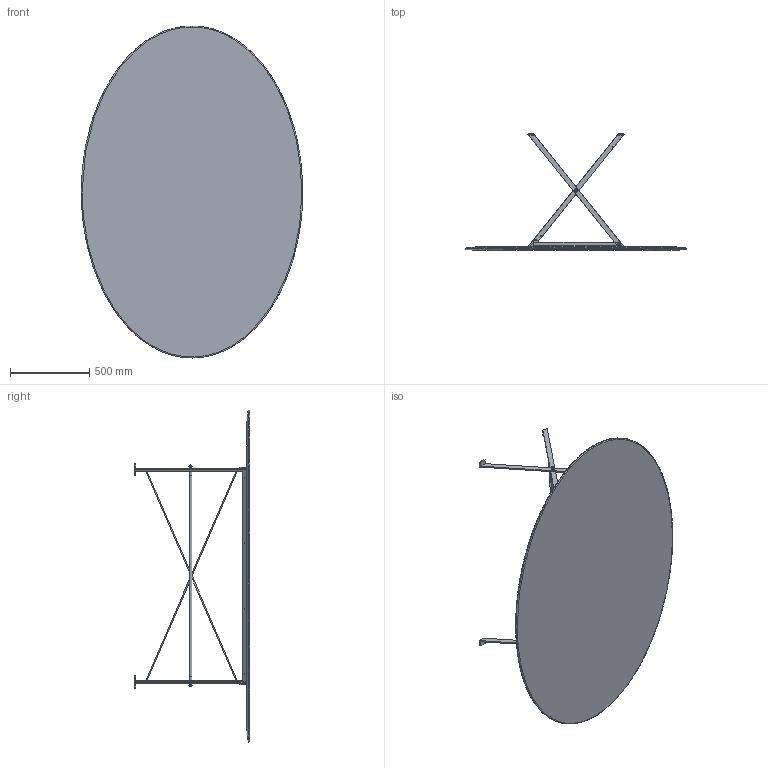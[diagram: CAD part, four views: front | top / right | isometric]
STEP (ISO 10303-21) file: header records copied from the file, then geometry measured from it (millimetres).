
FILE_DESCRIPTION(/* description */ (''),/* implementation_level */ '2;1');
FILE_NAME(/* name */ '1-001074-CAD-00078325.stp',/* time_stamp */ '2026-01-22T17:55:25+01:00',/* author */ ('rbianchi'),/* organization */ (''),/* preprocessor_version */ 'ST-DEVELOPER v19.2',/* originating_system */ 'Autodesk Inventor 2023',/* authorisation */ '');
FILE_SCHEMA (('AUTOMOTIVE_DESIGN { 1 0 10303 214 3 1 1 }'));
Products named in the file (18): 1-001074-CAD-00078325; Top-Cavalletto-Grande-LCD; Bussola-M6x12; 3-005403-CAD-00078323; M6x14-ViteTComb-M6003429; GambeEsterne-Piano-Cavalletto-Grande-LCD; Vite-M4; Rondella-Tubo-Centrale-Cavalletto-PiccoloLCD; Rondella-piccola-elemento-aggancio-Cavalletto-PiccoloLCD; Tubo-Centrale-Cavalletto-Grande-LCD; Perno-Tubo-Centrale-Cavalletto-PiccoloLCD; Elemento-aggancio-Cavalletto-Grande-LCD; Elemento2-aggancio-Cavalletto-Grande-LCD; Dado-esagonale-con-calotta-M6; Dado-esagonale-con-calotta-M12; Feltrino-Cavalletto-PiccoloLCD; Logo-Azucena-Cavalletto-PiccoloLCD; GambeInterne-Piano-Cavalletto-Grande-LCD
Assembly tree (47 placements, depth 2):
  1-001074-CAD-00078325
    Top-Cavalletto-Grande-LCD
    Bussola-M6x12  x8
    3-005403-CAD-00078323  x2
    M6x14-ViteTComb-M6003429  x8
    GambeEsterne-Piano-Cavalletto-Grande-LCD
    Vite-M4  x8
    Rondella-Tubo-Centrale-Cavalletto-PiccoloLCD  x2
    Rondella-piccola-elemento-aggancio-Cavalletto-PiccoloLCD  x2
    Tubo-Centrale-Cavalletto-Grande-LCD
    Perno-Tubo-Centrale-Cavalletto-PiccoloLCD  x2
    Elemento-aggancio-Cavalletto-Grande-LCD
    Elemento2-aggancio-Cavalletto-Grande-LCD
    Dado-esagonale-con-calotta-M6  x2
    Dado-esagonale-con-calotta-M12  x2
    Feltrino-Cavalletto-PiccoloLCD  x4
    Logo-Azucena-Cavalletto-PiccoloLCD
    GambeInterne-Piano-Cavalletto-Grande-LCD
Bounding box: 1399.89 x 733 x 2099.41 mm (x, y, z)
Volume: 46637711.1 mm3; surface area: 5669039.3 mm2
Topology: 100 solids, 108 shells, 1683 faces, 5630 edges, 5589 vertices
Faces by surface type: plane 1021, bspline 403, cylinder 177, cone 72, sphere 10
Full cylindrical faces by diameter (mm): 3.8 x8, 4 x16, 5 x8, 6 x22, 7 x2, 8 x32, 9.739 x2, 10 x8, 12 x6, 13 x2, 14 x14, 16 x1, 18 x2, 22 x2, 30 x4
Entity records: 53546 total; most frequent: CARTESIAN_POINT 22109, ORIENTED_EDGE 6158, DIRECTION 4314, EDGE_CURVE 3080, VERTEX_POINT 2042, LINE 2020, VECTOR 2020, B_SPLINE_CURVE_WITH_KNOTS 1510
